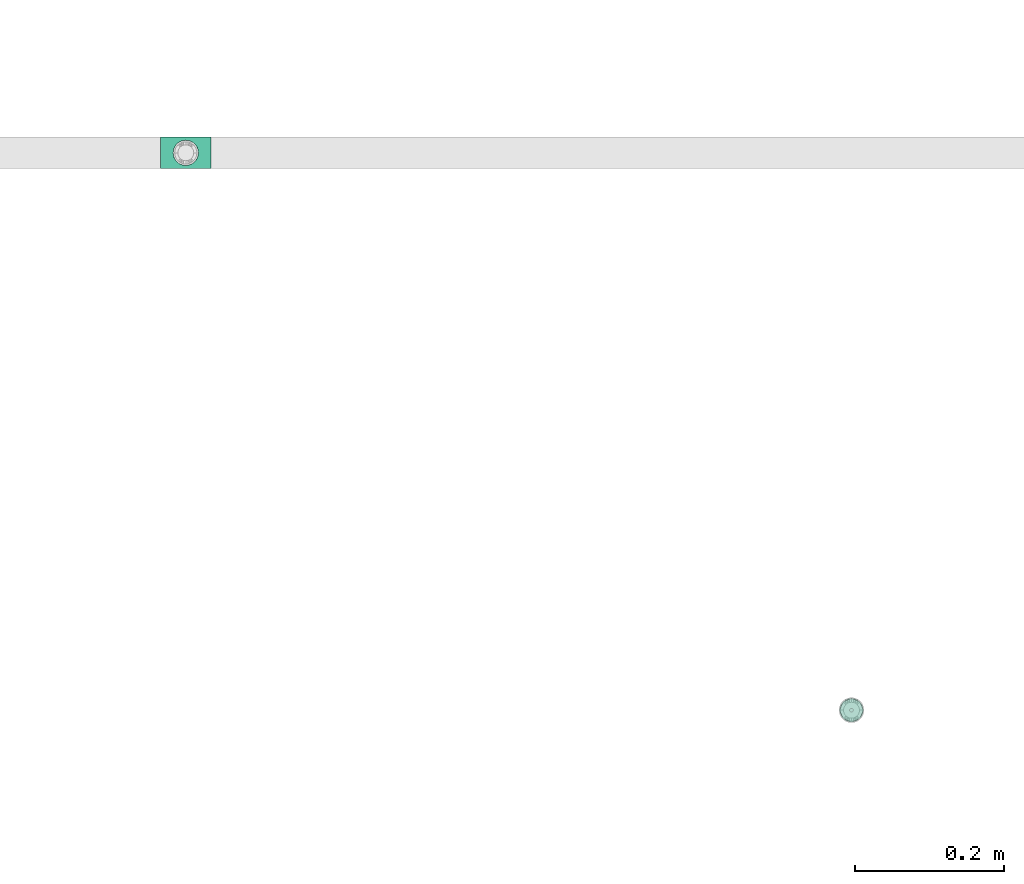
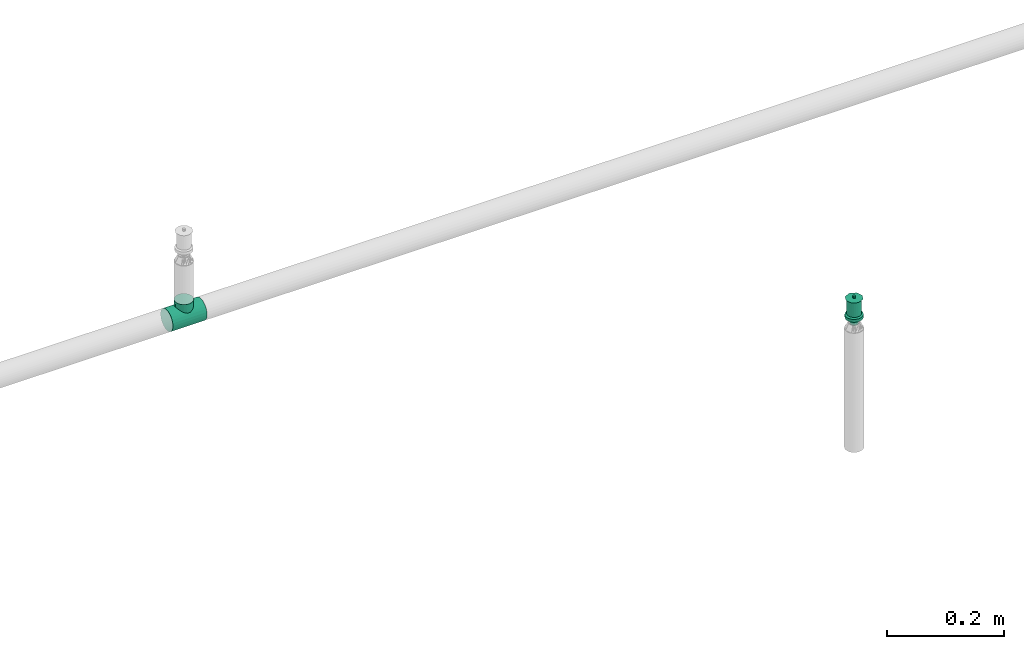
# One storey, part 14 of 94: 1 flow fitting, 1 flow terminal.
"""IFC2X3 building model written with IfcOpenShell, lengths in millimetres."""

from ifc_helpers import new_model, entity, si_unit, converted_unit, derived_unit, direction, frame, origin_with_axes, place, context, subcontext, project, spatial, open_shell, surface_model, source, transform, mapped, type_object, element, save


model = new_model("IFC2X3")

# Units and contexts
model_context = context("Model", 3, precision=0.01, world=frame((0.0, 4.29681676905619e-09, 0.0)), true_north=direction((4.01073788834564e-13, 1.0)))
plan_context = context("Plan", 3, precision=0.01, world=frame((0.0, 4.29681676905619e-09, 0.0)), true_north=direction((4.01073788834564e-13, 1.0)))
body_context = subcontext(model_context, "Body", "Model", "MODEL_VIEW")
ifc_project = project(units=[converted_unit("PLANEANGLEUNIT", "DEGREE", entity("IfcPositiveLengthMeasure", 0.0174532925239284), si_unit("PLANEANGLEUNIT", "RADIAN"), dimensions=[0, 0, 0, 0, 0, 0, 0]), si_unit("AREAUNIT", "SQUARE_METRE"), si_unit("LENGTHUNIT", "METRE", prefix="MILLI"), si_unit("MASSUNIT", "GRAM", prefix="KILO"), si_unit("POWERUNIT", "WATT"), si_unit("PRESSUREUNIT", "PASCAL"), si_unit("FORCEUNIT", "NEWTON", prefix="KILO"), si_unit("ELECTRICCURRENTUNIT", "AMPERE"), si_unit("THERMODYNAMICTEMPERATUREUNIT", "DEGREE_CELSIUS"), si_unit("TIMEUNIT", "SECOND"), si_unit("VOLUMEUNIT", "CUBIC_METRE"), derived_unit("LINEARVELOCITYUNIT", [(si_unit("LENGTHUNIT", "METRE"), 1), (si_unit("TIMEUNIT", "SECOND"), -1)]), derived_unit("VOLUMETRICFLOWRATEUNIT", [(si_unit("VOLUMEUNIT", "CUBIC_METRE"), 1), (si_unit("TIMEUNIT", "SECOND"), -1)]), derived_unit("THERMALTRANSMITTANCEUNIT", [(si_unit("POWERUNIT", "WATT"), 1), (si_unit("THERMODYNAMICTEMPERATUREUNIT", "KELVIN"), -1), (si_unit("AREAUNIT", "SQUARE_METRE"), -1)])], contexts=[model_context, plan_context])

# Site, building, storey
site_placement = place(None, frame((0.0, -4.29681676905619e-09, 0.0), z_axis=(0.0, 0.0, 1.0), x_axis=(1.0, 0.0, 0.0)))
site = spatial("IfcSite", under=ifc_project, at=site_placement, CompositionType="ELEMENT")
building_placement = place(site_placement, frame((0.0, 4.29681676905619e-09, 0.0), z_axis=(0.0, 0.0, 1.0), x_axis=(1.0, 0.0, 0.0)))
building = spatial("IfcBuilding", under=site, at=building_placement, Name="mc-building", CompositionType="ELEMENT")
storey_placement = place(building_placement, frame((0.0, 0.0, 200300.0), z_axis=(0.0, 0.0, 1.0), x_axis=(1.0, 0.0, 0.0)))
storey = spatial("IfcBuildingStorey", under=building, at=storey_placement, Name="Nivå C", CompositionType="ELEMENT", Elevation=200300.0)

# Flow fitting
pipe_fitting_type = type_object("IfcPipeFittingType", Name="magi_pipe_fe_tee_centric_90_NOR", PredefinedType="JUNCTION")
shared_shape_1 = source(origin_with_axes(), body_context, "Body", "SurfaceModel", [
    surface_model("IfcShellBasedSurfaceModel", [(-33.8, 0.0, -21.2), (-33.8, -5.48696, -20.47763), (-33.8, 5.48696, -20.47763), (-33.8, 10.6, -18.35974), (-33.8, 14.99066, -14.99066), (-33.8, -20.47763, 5.48696), (-33.8, 18.35974, -10.6), (-33.8, 10.6, 18.35974), (-33.8, -14.99066, -14.99066), (-33.8, -18.35974, -10.6), (-33.8, -10.6, -18.35974), (-33.8, -20.47763, -5.48696), (-33.8, -21.2, 0.0), (-33.8, 18.35974, 10.6), (-33.8, 20.47763, -5.48696), (-33.8, 20.47763, 5.48696), (-33.8, 21.2, 0.0), (-33.8, 14.99066, 14.99066), (-33.8, 5.48696, 20.47763), (-33.8, 0.0, 21.2), (-33.8, -18.35974, 10.6), (-33.8, -14.99066, 14.99066), (-33.8, -10.6, 18.35974), (-33.8, -5.48696, 20.47763), (33.8, 5.48696, -20.47763), (33.8, -5.48696, -20.47763), (33.8, 0.0, -21.2), (33.8, 14.99066, -14.99066), (33.8, 10.6, -18.35974), (33.8, 18.35974, -10.6), (33.8, 20.47763, -5.48696), (33.8, -21.2, 0.0), (33.8, -10.6, -18.35974), (33.8, -18.35974, -10.6), (33.8, -14.99066, -14.99066), (33.8, -20.47763, -5.48696), (33.8, -20.47763, 5.48696), (33.8, 21.2, 0.0), (33.8, 20.47763, 5.48696), (33.8, 18.35974, 10.6), (33.8, 10.6, 18.35974), (33.8, 14.99066, 14.99066), (33.8, 0.0, 21.2), (33.8, 5.48696, 20.47763), (33.8, -14.99066, 14.99066), (33.8, -18.35974, 10.6), (33.8, -10.6, 18.35974), (33.8, -5.48696, 20.47763), (16.9, -21.2, 0.0), (15.78624, -20.32327, 6.03364), (12.81343, -18.11115, 11.01935), (8.52479, -15.37862, 14.59239), (3.07939, -13.16482, 16.61708), (-16.9, -21.2, 0.0), (-15.78686, -20.32375, 6.032), (-8.52604, -15.37932, 14.59166), (-3.0848, -13.16609, 16.61608), (-12.81602, -18.11299, 11.01634), (3.07939, -13.16482, -16.61708), (12.81343, -18.11115, -11.01935), (8.52479, -15.37862, -14.59239), (15.78624, -20.32327, -6.03364), (-3.0848, -13.16609, -16.61608), (-8.52604, -15.37932, -14.59166), (-12.81602, -18.11299, -11.01634), (-15.78686, -20.32375, -6.032), (4.37404, -31.8, -16.32415), (-16.9, -31.8, 0.0), (0.0, -31.8, -16.9), (14.63583, -31.8, -8.45), (8.45, -31.8, -14.63583), (16.32415, -31.8, -4.37404), (11.9501, -31.8, -11.9501), (-11.9501, -31.8, -11.9501), (-8.45, -31.8, -14.63583), (-4.37404, -31.8, -16.32415), (-14.63583, -31.8, -8.45), (-16.32415, -31.8, -4.37404), (16.9, -31.8, 0.0), (8.45, -31.8, 14.63583), (16.32415, -31.8, 4.37404), (14.63583, -31.8, 8.45), (-8.45, -31.8, 14.63583), (11.9501, -31.8, 11.9501), (4.37404, -31.8, 16.32415), (-16.32415, -31.8, 4.37404), (-11.9501, -31.8, 11.9501), (-14.63583, -31.8, 8.45), (0.0, -31.8, 16.9), (-4.37404, -31.8, 16.32415), (-16.34343, -20.76188, 3.016), (16.34312, -20.76163, 3.01682), (-0.00271, -13.16546, 16.61658), (16.34312, -20.76163, -3.01682), (-0.00271, -13.16546, -16.61658), (-16.34343, -20.76188, -3.016)], [open_shell([[[0, 1, 2]], [[3, 2, 4]], [[5, 2, 1]], [[4, 2, 6]], [[6, 2, 7]], [[8, 9, 10]], [[1, 10, 9]], [[9, 11, 1]], [[12, 1, 11]], [[5, 1, 12]], [[13, 14, 6]], [[13, 15, 16]], [[6, 7, 13]], [[5, 7, 2]], [[17, 13, 7]], [[18, 7, 19]], [[20, 21, 5]], [[22, 5, 21]], [[23, 19, 22]], [[7, 5, 22]], [[22, 19, 7]], [[16, 14, 13]], [[24, 25, 26]], [[27, 24, 28]], [[29, 30, 24]], [[29, 24, 27]], [[31, 24, 30]], [[32, 33, 34]], [[33, 32, 25]], [[33, 31, 35]], [[31, 33, 25]], [[25, 24, 31]], [[30, 36, 31]], [[37, 38, 39]], [[37, 39, 40]], [[37, 40, 36]], [[40, 39, 41]], [[42, 40, 43]], [[36, 44, 45]], [[44, 36, 46]], [[46, 42, 47]], [[46, 36, 40]], [[40, 42, 46]], [[37, 36, 30]], [[31, 36, 48]], [[49, 48, 36]], [[36, 45, 49]], [[45, 44, 50]], [[51, 50, 44]], [[52, 51, 44]], [[44, 46, 52]], [[45, 50, 49]], [[53, 54, 5]], [[5, 12, 53]], [[54, 20, 5]], [[55, 56, 21]], [[20, 57, 21]], [[57, 20, 54]], [[21, 57, 55]], [[56, 22, 21]], [[52, 22, 56]], [[19, 47, 42]], [[23, 46, 47]], [[18, 42, 43]], [[39, 38, 15]], [[17, 40, 41]], [[13, 41, 39]], [[43, 40, 7]], [[16, 38, 37]], [[22, 46, 23]], [[23, 47, 19]], [[18, 19, 42]], [[43, 7, 18]], [[7, 40, 17]], [[13, 17, 41]], [[15, 13, 39]], [[38, 16, 15]], [[46, 22, 52]], [[6, 30, 29]], [[14, 37, 30]], [[4, 29, 27]], [[26, 25, 1]], [[2, 28, 24]], [[0, 24, 26]], [[27, 28, 3]], [[10, 25, 32]], [[16, 37, 14]], [[14, 30, 6]], [[4, 6, 29]], [[27, 3, 4]], [[3, 28, 2]], [[0, 2, 24]], [[1, 0, 26]], [[25, 10, 1]], [[32, 58, 10]], [[34, 59, 60]], [[59, 34, 33]], [[60, 58, 34]], [[34, 58, 32]], [[35, 31, 48]], [[35, 61, 33]], [[61, 35, 48]], [[33, 61, 59]], [[62, 63, 8]], [[8, 64, 9]], [[64, 8, 63]], [[62, 8, 10]], [[65, 53, 11]], [[65, 11, 9]], [[11, 53, 12]], [[65, 9, 64]], [[58, 62, 10]], [[66, 67, 68]], [[69, 66, 70]], [[69, 71, 66]], [[69, 70, 72]], [[67, 66, 71]], [[68, 73, 74]], [[74, 75, 68]], [[76, 67, 77]], [[73, 68, 76]], [[67, 76, 68]], [[71, 78, 67]], [[79, 78, 80]], [[79, 80, 81]], [[82, 67, 79]], [[79, 81, 83]], [[82, 79, 84]], [[85, 86, 87]], [[86, 85, 82]], [[82, 88, 89]], [[85, 67, 82]], [[84, 88, 82]], [[79, 67, 78]], [[85, 90, 67]], [[57, 87, 86]], [[85, 87, 54]], [[86, 82, 55]], [[85, 54, 90]], [[90, 53, 67]], [[54, 87, 57]], [[91, 49, 80]], [[55, 89, 56]], [[55, 57, 86]], [[88, 52, 92]], [[55, 82, 89]], [[52, 88, 84]], [[79, 51, 84]], [[50, 83, 81]], [[83, 51, 79]], [[81, 80, 49]], [[83, 50, 51]], [[51, 52, 84]], [[78, 91, 80]], [[49, 50, 81]], [[91, 78, 48]], [[88, 56, 89]], [[92, 56, 88]], [[71, 93, 78]], [[59, 69, 72]], [[71, 69, 61]], [[72, 70, 60]], [[93, 48, 78]], [[61, 69, 59]], [[60, 66, 58]], [[60, 59, 72]], [[68, 62, 94]], [[60, 70, 66]], [[95, 67, 53]], [[95, 65, 77]], [[71, 61, 93]], [[75, 62, 68]], [[65, 76, 77]], [[73, 76, 64]], [[68, 58, 66]], [[75, 63, 62]], [[63, 75, 74]], [[74, 73, 63]], [[63, 73, 64]], [[64, 76, 65]], [[67, 95, 77]], [[94, 58, 68]]])]),
])
flow_fitting_placement = place(storey_placement, frame((515508.72873, 407003.74497, 2850.0), z_axis=(0.0, -1.0, 0.0), x_axis=(-1.0, 0.0, 0.0)))
element("IfcFlowFitting", 1, at=flow_fitting_placement, inside=storey, type_object=pipe_fitting_type, Name="magi_pipe_fe_tee_centric_90_NOR", context=body_context, shape_type="MappedRepresentation", body=[
    mapped(shared_shape_1, transform((0.0, 0.0, 0.0), scale=1.0)),
])

# Flow terminal
fire_suppression_terminal_type = type_object("IfcFireSuppressionTerminalType", Name="68DGR-STD-STÅENDE", PredefinedType="NOTDEFINED")
shared_shape_2 = source(origin_with_axes(), body_context, "Body", "SurfaceModel", [
    surface_model("IfcShellBasedSurfaceModel", [(12.55704, 3.36465, 21.14766), (13.0, 0.0, 21.14766), (12.55704, -3.36465, 21.14766), (-12.55704, -3.36465, 21.14766), (-11.25833, -6.5, 21.14766), (-11.25833, -6.5, 51.0), (3.36465, -12.55704, 51.0), (3.36465, -12.55704, 21.14766), (6.5, -11.25833, 21.14766), (9.19239, -9.19239, 21.14766), (11.25833, -6.5, 21.14766), (9.19239, -9.19239, 51.0), (6.5, -11.25833, 51.0), (11.25833, -6.5, 51.0), (12.55704, -3.36465, 51.0), (13.0, 0.0, 51.0), (9.19239, 9.19239, 51.0), (11.25833, 6.5, 21.14766), (9.19239, 9.19239, 21.14766), (11.25833, 6.5, 51.0), (12.55704, 3.36465, 51.0), (6.5, 11.25833, 51.0), (6.5, 11.25833, 21.14766), (3.36465, 12.55704, 21.14766), (3.36465, 12.55704, 51.0), (-11.25833, 6.5, 51.0), (-11.25833, 6.5, 21.14766), (-12.55704, 3.36465, 21.14766), (0.0, -2.5, 51.0), (-2.5, 0.0, 51.0), (0.0, 2.5, 51.0), (2.5, 0.0, 51.0), (11.31371, 11.31371, 53.0), (-11.31371, 11.31371, 53.0), (-11.31371, -11.31371, 53.0), (11.31371, -11.31371, 53.0), (1.62635, 1.62635, 51.0), (2.16506, 1.25, 51.0), (1.99186, 1.15, 51.0), (-1.76777, 1.76777, 51.0), (-1.25, 2.16506, 51.0), (-1.62635, 1.62635, 51.0), (1.99186, -1.15, 51.0), (2.16506, -1.25, 51.0), (1.62635, -1.62635, 51.0), (-1.62635, -1.62635, 51.0), (-1.25, -2.16506, 51.0), (-1.76777, -1.76777, 51.0), (0.0, 7.3, 0.0), (1.94114, 7.24444, 0.0), (1.88938, 7.05126, 0.0), (5.16188, 5.16188, 0.0), (6.49519, 3.75, 0.0), (6.32199, 3.65, 0.0), (-5.3033, 5.3033, 0.0), (-3.75, 6.49519, 0.0), (-5.16188, 5.16188, 0.0), (6.32199, -3.65, 0.0), (6.49519, -3.75, 0.0), (5.16188, -5.16188, 0.0), (1.88938, -7.05126, 0.0), (1.94114, -7.24444, 0.0), (0.0, -7.3, 0.0), (-5.16188, -5.16188, 0.0), (-3.75, -6.49519, 0.0), (-5.3033, -5.3033, 0.0), (-3.36465, 12.55704, 51.0), (-6.5, 11.25833, 51.0), (0.0, 13.0, 51.0), (-9.19239, 9.19239, 51.0), (0.0, -13.0, 51.0), (-9.19239, -9.19239, 51.0), (-12.55704, -3.36465, 51.0), (-6.5, -11.25833, 51.0), (-3.36465, -12.55704, 51.0), (-7.5, 0.0, -0.1), (-7.24444, 1.94114, 0.1), (-7.24444, 1.94114, -0.1), (-6.49519, 3.75, 0.1), (-6.49519, 3.75, -0.1), (-3.75, 6.49519, -0.1), (-5.3033, 5.3033, -0.1), (-3.75, 6.49519, 0.1), (-5.3033, 5.3033, 0.1), (-1.94114, 7.24444, -0.1), (-1.94114, 7.24444, 0.1), (-7.5, 0.0, 0.1), (0.0, 7.5, 0.1), (0.0, 7.5, -0.1), (1.94114, 7.24444, 0.1), (1.94114, 7.24444, -0.1), (3.75, 6.49519, 0.1), (3.75, 6.49519, -0.1), (6.49519, 3.75, -0.1), (5.3033, 5.3033, -0.1), (6.49519, 3.75, 0.1), (5.3033, 5.3033, 0.1), (7.24444, 1.94114, -0.1), (7.24444, 1.94114, 0.1), (7.5, 0.0, 0.1), (7.5, 0.0, -0.1), (-7.24444, -1.94114, 0.1), (7.24444, -1.94114, 0.1), (5.3033, -5.3033, 0.1), (6.49519, -3.75, 0.1), (-6.49519, -3.75, 0.1), (0.0, -7.5, 0.1), (1.94114, -7.24444, 0.1), (3.75, -6.49519, 0.1), (-3.75, -6.49519, 0.1), (-1.94114, -7.24444, 0.1), (-5.3033, -5.3033, 0.1), (0.0, -7.5, -0.1), (-6.49519, -3.75, -0.1), (1.94114, -7.24444, -0.1), (3.75, -6.49519, -0.1), (5.3033, -5.3033, -0.1), (7.24444, -1.94114, -0.1), (6.49519, -3.75, -0.1), (-3.75, -6.49519, -0.1), (-5.3033, -5.3033, -0.1), (-1.94114, -7.24444, -0.1), (-7.24444, -1.94114, -0.1), (16.0, 0.0, 53.0), (0.0, -16.0, 53.0), (-16.0, 0.0, 53.0), (0.0, 16.0, 53.0), (0.64705, 2.41481, 57.0), (0.0, 2.5, 57.0), (1.25, 2.16506, 57.0), (-2.5, 0.0, 57.0), (1.76777, 1.76777, 57.0), (2.41481, 0.64705, 57.0), (2.16506, 1.25, 57.0), (-0.64705, 2.41481, 57.0), (-1.25, 2.16506, 57.0), (-1.76777, 1.76777, 57.0), (-2.16506, 1.25, 57.0), (-2.41481, 0.64705, 57.0), (2.5, 0.0, 57.0), (1.76777, -1.76777, 57.0), (2.16506, -1.25, 57.0), (2.41481, -0.64705, 57.0), (-2.41481, -0.64705, 57.0), (0.64705, -2.41481, 57.0), (1.25, -2.16506, 57.0), (0.0, -2.5, 57.0), (-1.76777, -1.76777, 57.0), (-2.16506, -1.25, 57.0), (-1.25, -2.16506, 57.0), (-0.64705, -2.41481, 57.0), (1.15, -1.99186, 51.0), (1.76777, -1.76777, 51.0), (1.25, -2.16506, 51.0), (0.59528, -2.22163, 51.0), (0.0, -2.3, 51.0), (0.64705, -2.41481, 51.0), (2.22163, -0.59528, 51.0), (2.3, 0.0, 51.0), (2.41481, -0.64705, 51.0), (-0.64705, -2.41481, 51.0), (-0.59528, -2.22163, 51.0), (-1.15, -1.99186, 51.0), (-2.16506, -1.25, 51.0), (-1.99186, -1.15, 51.0), (-2.22163, -0.59528, 51.0), (-2.3, 0.0, 51.0), (-2.41481, -0.64705, 51.0), (2.22163, 0.59528, 51.0), (2.41481, 0.64705, 51.0), (1.76777, 1.76777, 51.0), (1.15, 1.99186, 51.0), (1.25, 2.16506, 51.0), (0.59528, 2.22163, 51.0), (0.0, 2.3, 51.0), (0.64705, 2.41481, 51.0), (-1.99186, 1.15, 51.0), (-2.16506, 1.25, 51.0), (-2.41481, 0.64705, 51.0), (-2.22163, 0.59528, 51.0), (-0.64705, 2.41481, 51.0), (-0.59528, 2.22163, 51.0), (-1.15, 1.99186, 51.0), (-2.22163, 0.59528, 56.8), (-1.99186, 1.15, 56.8), (-1.15, 1.99186, 56.8), (-1.62635, 1.62635, 56.8), (-0.59528, 2.22163, 56.8), (-2.3, 0.0, 56.8), (0.0, 2.3, 56.8), (0.59528, 2.22163, 56.8), (1.15, 1.99186, 56.8), (1.99186, 1.15, 56.8), (1.62635, 1.62635, 56.8), (2.22163, 0.59528, 56.8), (2.3, 0.0, 56.8), (2.22163, -0.59528, 56.8), (1.99186, -1.15, 56.8), (1.62635, -1.62635, 56.8), (1.15, -1.99186, 56.8), (0.59528, -2.22163, 56.8), (0.0, -2.3, 56.8), (-1.99186, -1.15, 56.8), (-2.22163, -0.59528, 56.8), (-1.62635, -1.62635, 56.8), (-0.59528, -2.22163, 56.8), (-1.15, -1.99186, 56.8), (8.0, -13.85641, 13.0), (4.1411, -15.45481, 13.0), (0.0, -16.0, 13.0), (-4.1411, -15.45481, 13.0), (15.45481, -4.1411, 13.0), (13.85641, -8.0, 13.0), (11.31371, -11.31371, 13.0), (-16.0, 0.0, 13.0), (-8.0, -13.85641, 13.0), (-11.31371, -11.31371, 13.0), (-13.85641, -8.0, 13.0), (-15.45481, -4.1411, 13.0), (15.45481, 4.1411, 13.0), (4.1411, 15.45481, 13.0), (13.85641, 8.0, 13.0), (8.0, 13.85641, 13.0), (11.31371, 11.31371, 13.0), (-15.45481, 4.1411, 13.0), (-11.31371, 11.31371, 13.0), (-8.0, 13.85641, 13.0), (-13.85641, 8.0, 13.0), (-4.1411, 15.45481, 13.0), (0.0, 16.0, 13.0), (16.0, 0.0, 13.0), (7.05126, 1.88938, 12.8), (1.88938, 7.05126, 12.8), (3.65, 6.32199, 12.8), (6.32199, 3.65, 12.8), (5.16188, 5.16188, 12.8), (7.3, 0.0, 12.8), (0.0, 7.3, 12.8), (-3.65, 6.32199, 12.8), (-1.88938, 7.05126, 12.8), (-5.16188, 5.16188, 12.8), (-7.05126, 1.88938, 12.8), (-6.32199, 3.65, 12.8), (7.05126, -1.88938, 12.8), (0.0, -7.3, 12.8), (6.32199, -3.65, 12.8), (3.65, -6.32199, 12.8), (5.16188, -5.16188, 12.8), (1.88938, -7.05126, 12.8), (-7.3, 0.0, 12.8), (-6.32199, -3.65, 12.8), (-7.05126, -1.88938, 12.8), (-1.88938, -7.05126, 12.8), (-5.16188, -5.16188, 12.8), (-3.65, -6.32199, 12.8), (-7.05126, 1.88938, 0.0), (-7.3, 0.0, 0.0), (-6.32199, 3.65, 0.0), (-3.65, 6.32199, 0.0), (-1.88938, 7.05126, 0.0), (3.65, 6.32199, 0.0), (7.05126, 1.88938, 0.0), (7.3, 0.0, 0.0), (3.75, 6.49519, 13.0), (1.94114, 7.24444, 13.0), (7.5, 0.0, 13.0), (5.3033, 5.3033, 13.0), (7.24444, 1.94114, 13.0), (6.49519, 3.75, 13.0), (-5.3033, 5.3033, 13.0), (-7.24444, -1.94114, 13.0), (-1.94114, 7.24444, 13.0), (-3.75, 6.49519, 13.0), (0.0, 7.5, 13.0), (-6.49519, 3.75, 13.0), (-7.24444, 1.94114, 13.0), (7.24444, -1.94114, 13.0), (5.3033, -5.3033, 13.0), (6.49519, -3.75, 13.0), (-6.49519, -3.75, 13.0), (0.0, -7.5, 13.0), (1.94114, -7.24444, 13.0), (3.75, -6.49519, 13.0), (-7.5, 0.0, 13.0), (-3.75, -6.49519, 13.0), (-1.94114, -7.24444, 13.0), (-5.3033, -5.3033, 13.0), (3.65, -6.32199, 0.0), (5.3033, -5.3033, 0.0), (3.75, -6.49519, 0.0), (0.0, -7.5, 0.0), (7.05126, -1.88938, 0.0), (7.24444, -1.94114, 0.0), (7.5, 0.0, 0.0), (-1.94114, -7.24444, 0.0), (-1.88938, -7.05126, 0.0), (-3.65, -6.32199, 0.0), (-6.49519, -3.75, 0.0), (-6.32199, -3.65, 0.0), (-7.05126, -1.88938, 0.0), (-7.24444, -1.94114, 0.0), (-7.5, 0.0, 0.0), (7.24444, 1.94114, 0.0), (5.3033, 5.3033, 0.0), (3.75, 6.49519, 0.0), (0.0, 7.5, 0.0), (-6.49519, 3.75, 0.0), (-7.24444, 1.94114, 0.0), (-1.94114, 7.24444, 0.0), (-12.55704, 3.36465, 51.0), (-13.0, 0.0, 51.0), (0.0, -13.0, 21.14766), (-3.36465, -12.55704, 21.14766), (-6.5, -11.25833, 21.14766), (-9.19239, -9.19239, 21.14766), (-13.0, 0.0, 21.14766), (-9.19239, 9.19239, 21.14766), (-6.5, 11.25833, 21.14766), (-3.36465, 12.55704, 21.14766), (0.0, 13.0, 21.14766), (11.31371, 11.31371, 19.0), (8.0, 13.85641, 19.0), (4.1411, 15.45481, 19.0), (-8.0, 13.85641, 19.0), (16.0, 0.0, 19.0), (15.45481, 4.1411, 19.0), (13.85641, 8.0, 19.0), (-4.1411, 15.45481, 19.0), (0.0, 16.0, 19.0), (-11.31371, 11.31371, 19.0), (-13.85641, 8.0, 19.0), (-15.45481, 4.1411, 19.0), (15.45481, -4.1411, 19.0), (11.31371, -11.31371, 19.0), (13.85641, -8.0, 19.0), (-16.0, 0.0, 19.0), (0.0, -16.0, 19.0), (4.1411, -15.45481, 19.0), (8.0, -13.85641, 19.0), (-13.85641, -8.0, 19.0), (-11.31371, -11.31371, 19.0), (-15.45481, -4.1411, 19.0), (-8.0, -13.85641, 19.0), (-4.1411, -15.45481, 19.0)], [open_shell([[[0, 1, 2]], [[3, 4, 5]], [[6, 7, 8]], [[9, 10, 11]], [[9, 11, 12]], [[10, 13, 11]], [[14, 13, 2]], [[1, 15, 14]], [[16, 17, 18]], [[0, 19, 20]], [[20, 15, 1]], [[21, 16, 18]], [[22, 23, 24]], [[16, 19, 17]], [[25, 26, 27]], [[28, 29, 30]], [[30, 31, 28]], [[31, 30, 32]], [[33, 30, 29]], [[29, 28, 34]], [[35, 28, 31]], [[36, 37, 38]], [[39, 40, 41]], [[42, 43, 44]], [[45, 46, 47]], [[48, 49, 50]], [[51, 52, 53]], [[54, 55, 56]], [[57, 58, 59]], [[60, 61, 62]], [[63, 64, 65]], [[66, 67, 68]], [[67, 24, 68]], [[69, 25, 67]], [[15, 20, 14]], [[70, 6, 12]], [[5, 71, 72]], [[73, 74, 71]], [[72, 71, 74]], [[75, 76, 77]], [[77, 78, 79]], [[80, 81, 82]], [[83, 81, 79]], [[84, 80, 85]], [[76, 78, 77]], [[75, 86, 76]], [[80, 82, 85]], [[82, 81, 83]], [[79, 78, 83]], [[84, 85, 87]], [[87, 88, 84]], [[88, 89, 90]], [[90, 91, 92]], [[93, 94, 95]], [[96, 94, 92]], [[97, 93, 98]], [[91, 96, 92]], [[90, 89, 91]], [[97, 98, 99]], [[98, 93, 95]], [[94, 96, 95]], [[97, 99, 100]], [[87, 89, 88]], [[91, 89, 99]], [[96, 91, 98]], [[91, 99, 98]], [[95, 96, 98]], [[89, 83, 101]], [[85, 82, 87]], [[83, 87, 82]], [[78, 76, 83]], [[89, 87, 83]], [[76, 101, 83]], [[102, 99, 89]], [[103, 104, 102]], [[89, 105, 103]], [[103, 106, 107]], [[108, 103, 107]], [[106, 103, 105]], [[89, 101, 105]], [[101, 76, 86]], [[109, 110, 111]], [[105, 111, 110]], [[106, 105, 110]], [[103, 102, 89]], [[112, 113, 114]], [[115, 114, 116]], [[117, 118, 116]], [[113, 116, 114]], [[116, 113, 117]], [[119, 120, 121]], [[113, 121, 120]], [[121, 113, 112]], [[113, 122, 117]], [[75, 77, 122]], [[100, 117, 122]], [[100, 81, 97]], [[93, 97, 90]], [[90, 92, 94]], [[93, 90, 94]], [[90, 97, 81]], [[79, 81, 77]], [[77, 81, 122]], [[84, 88, 80]], [[81, 80, 88]], [[81, 88, 90]], [[100, 122, 81]], [[100, 102, 117]], [[117, 104, 118]], [[115, 116, 108]], [[103, 116, 118]], [[114, 115, 107]], [[102, 104, 117]], [[100, 99, 102]], [[115, 108, 107]], [[108, 116, 103]], [[118, 104, 103]], [[114, 107, 106]], [[106, 112, 114]], [[112, 110, 121]], [[121, 109, 119]], [[113, 120, 105]], [[111, 120, 119]], [[122, 113, 101]], [[109, 111, 119]], [[121, 110, 109]], [[122, 101, 86]], [[101, 113, 105]], [[120, 111, 105]], [[122, 86, 75]], [[106, 110, 112]], [[31, 123, 35]], [[35, 124, 28]], [[124, 34, 28]], [[29, 34, 125]], [[33, 32, 126]], [[33, 125, 124]], [[124, 32, 33]], [[124, 35, 123]], [[124, 125, 34]], [[123, 32, 124]], [[29, 125, 33]], [[33, 126, 30]], [[126, 32, 30]], [[31, 32, 123]], [[127, 128, 129]], [[129, 130, 131]], [[132, 131, 130]], [[133, 131, 132]], [[130, 129, 128]], [[134, 135, 128]], [[136, 128, 135]], [[137, 138, 136]], [[128, 136, 130]], [[138, 130, 136]], [[139, 132, 130]], [[140, 141, 142]], [[143, 140, 139]], [[144, 140, 143]], [[145, 140, 144]], [[146, 144, 147]], [[139, 130, 143]], [[143, 148, 144]], [[149, 150, 147]], [[144, 148, 147]], [[146, 147, 150]], [[140, 142, 139]], [[151, 152, 153]], [[154, 151, 153]], [[155, 154, 156]], [[153, 156, 154]], [[28, 155, 156]], [[44, 152, 151]], [[157, 158, 159]], [[31, 159, 158]], [[43, 157, 159]], [[152, 44, 43]], [[157, 43, 42]], [[160, 161, 28]], [[161, 155, 28]], [[162, 161, 160]], [[160, 46, 162]], [[162, 46, 45]], [[47, 163, 164]], [[165, 164, 163]], [[45, 47, 164]], [[166, 165, 167]], [[163, 167, 165]], [[29, 166, 167]], [[168, 169, 31]], [[38, 169, 168]], [[169, 38, 37]], [[170, 37, 36]], [[171, 172, 170]], [[173, 172, 171]], [[174, 175, 173]], [[172, 173, 175]], [[30, 175, 174]], [[170, 36, 171]], [[39, 176, 177]], [[41, 176, 39]], [[178, 177, 176]], [[178, 179, 29]], [[176, 179, 178]], [[179, 166, 29]], [[180, 30, 181]], [[182, 180, 181]], [[182, 41, 40]], [[180, 182, 40]], [[181, 30, 174]], [[31, 158, 168]], [[29, 138, 178]], [[178, 137, 177]], [[40, 39, 135]], [[136, 39, 177]], [[180, 40, 134]], [[138, 137, 178]], [[29, 130, 138]], [[40, 135, 134]], [[135, 39, 136]], [[177, 137, 136]], [[180, 134, 128]], [[128, 30, 180]], [[30, 127, 175]], [[175, 129, 172]], [[37, 170, 133]], [[131, 170, 172]], [[169, 37, 132]], [[129, 131, 172]], [[175, 127, 129]], [[169, 132, 139]], [[132, 37, 133]], [[170, 131, 133]], [[169, 139, 31]], [[128, 127, 30]], [[179, 183, 166]], [[176, 184, 179]], [[185, 41, 182]], [[176, 41, 186]], [[187, 182, 181]], [[179, 184, 183]], [[183, 188, 166]], [[187, 185, 182]], [[186, 41, 185]], [[186, 184, 176]], [[189, 187, 181]], [[181, 174, 189]], [[173, 190, 174]], [[171, 191, 173]], [[192, 36, 38]], [[171, 36, 193]], [[194, 38, 168]], [[171, 193, 191]], [[191, 190, 173]], [[195, 194, 168]], [[192, 38, 194]], [[192, 193, 36]], [[158, 195, 168]], [[174, 190, 189]], [[31, 142, 159]], [[159, 141, 43]], [[153, 152, 145]], [[140, 152, 43]], [[156, 153, 144]], [[142, 141, 159]], [[31, 139, 142]], [[153, 145, 144]], [[145, 152, 140]], [[43, 141, 140]], [[156, 144, 146]], [[146, 28, 156]], [[28, 150, 160]], [[160, 149, 46]], [[163, 47, 148]], [[147, 47, 46]], [[167, 163, 143]], [[149, 147, 46]], [[160, 150, 149]], [[167, 143, 130]], [[143, 163, 148]], [[47, 147, 148]], [[167, 130, 29]], [[146, 150, 28]], [[190, 191, 193]], [[190, 193, 195]], [[194, 195, 193]], [[194, 193, 192]], [[190, 195, 186]], [[189, 185, 187]], [[185, 189, 186]], [[186, 183, 184]], [[186, 189, 190]], [[186, 196, 183]], [[186, 195, 196]], [[196, 197, 198]], [[196, 198, 199]], [[199, 200, 201]], [[199, 201, 196]], [[196, 201, 202]], [[188, 202, 203]], [[183, 202, 188]], [[204, 205, 206]], [[205, 204, 202]], [[201, 205, 202]], [[202, 183, 196]], [[157, 196, 158]], [[42, 197, 157]], [[199, 44, 151]], [[42, 44, 198]], [[200, 151, 154]], [[157, 197, 196]], [[196, 195, 158]], [[200, 199, 151]], [[198, 44, 199]], [[198, 197, 42]], [[201, 200, 154]], [[154, 155, 201]], [[161, 205, 155]], [[162, 206, 161]], [[202, 45, 164]], [[162, 45, 204]], [[203, 164, 165]], [[162, 204, 206]], [[206, 205, 161]], [[188, 203, 165]], [[202, 164, 203]], [[202, 204, 45]], [[166, 188, 165]], [[155, 205, 201]], [[207, 208, 209]], [[207, 209, 210]], [[211, 212, 213]], [[213, 207, 214]], [[211, 213, 214]], [[215, 216, 210]], [[217, 210, 216]], [[217, 218, 210]], [[218, 207, 210]], [[218, 214, 207]], [[214, 219, 211]], [[220, 219, 214]], [[221, 219, 220]], [[220, 222, 223]], [[221, 220, 223]], [[214, 224, 220]], [[225, 226, 227]], [[224, 227, 226]], [[228, 229, 226]], [[220, 224, 226]], [[226, 229, 220]], [[219, 230, 211]], [[231, 232, 233]], [[234, 233, 235]], [[231, 236, 232]], [[231, 233, 234]], [[232, 236, 237]], [[237, 238, 239]], [[238, 237, 240]], [[240, 241, 242]], [[240, 237, 236]], [[236, 241, 240]], [[236, 243, 241]], [[244, 243, 245]], [[246, 245, 247]], [[246, 248, 244]], [[246, 244, 245]], [[243, 244, 249]], [[249, 250, 251]], [[250, 249, 252]], [[253, 252, 254]], [[252, 253, 250]], [[249, 244, 252]], [[243, 249, 241]], [[255, 241, 256]], [[257, 242, 255]], [[238, 56, 258]], [[257, 56, 240]], [[239, 258, 259]], [[255, 242, 241]], [[241, 249, 256]], [[239, 238, 258]], [[240, 56, 238]], [[240, 242, 257]], [[237, 239, 259]], [[259, 48, 237]], [[50, 232, 48]], [[260, 233, 50]], [[234, 51, 53]], [[260, 51, 235]], [[231, 53, 261]], [[260, 235, 233]], [[233, 232, 50]], [[236, 231, 261]], [[234, 53, 231]], [[234, 235, 51]], [[262, 236, 261]], [[48, 232, 237]], [[263, 264, 265]], [[266, 263, 267]], [[263, 265, 267]], [[268, 266, 267]], [[264, 269, 270]], [[271, 272, 273]], [[269, 273, 272]], [[274, 275, 269]], [[264, 273, 269]], [[275, 270, 269]], [[276, 265, 264]], [[277, 278, 276]], [[264, 279, 277]], [[277, 280, 281]], [[282, 277, 281]], [[280, 277, 279]], [[264, 270, 279]], [[270, 275, 283]], [[284, 285, 286]], [[279, 286, 285]], [[280, 279, 285]], [[277, 276, 264]], [[287, 288, 289]], [[60, 287, 289]], [[290, 62, 61]], [[289, 61, 60]], [[59, 288, 287]], [[291, 262, 292]], [[293, 292, 262]], [[58, 291, 292]], [[288, 59, 58]], [[291, 58, 57]], [[294, 295, 290]], [[296, 295, 294]], [[294, 64, 296]], [[64, 63, 296]], [[295, 62, 290]], [[65, 297, 298]], [[299, 298, 297]], [[63, 65, 298]], [[256, 299, 300]], [[297, 300, 299]], [[301, 256, 300]], [[261, 302, 293]], [[53, 302, 261]], [[302, 53, 52]], [[303, 52, 51]], [[260, 304, 303]], [[50, 304, 260]], [[304, 50, 49]], [[305, 49, 48]], [[303, 51, 260]], [[54, 257, 306]], [[56, 257, 54]], [[307, 306, 257]], [[307, 255, 301]], [[257, 255, 307]], [[255, 256, 301]], [[308, 305, 259]], [[258, 308, 259]], [[55, 258, 56]], [[308, 258, 55]], [[259, 305, 48]], [[293, 262, 261]], [[301, 275, 307]], [[307, 274, 306]], [[55, 54, 272]], [[269, 54, 306]], [[308, 55, 271]], [[275, 274, 307]], [[301, 283, 275]], [[55, 272, 271]], [[272, 54, 269]], [[306, 274, 269]], [[308, 271, 273]], [[273, 305, 308]], [[305, 264, 49]], [[49, 263, 304]], [[52, 303, 268]], [[266, 303, 304]], [[302, 52, 267]], [[263, 266, 304]], [[49, 264, 263]], [[302, 267, 265]], [[267, 52, 268]], [[303, 266, 268]], [[302, 265, 293]], [[273, 264, 305]], [[293, 276, 292]], [[292, 278, 58]], [[289, 288, 282]], [[277, 288, 58]], [[61, 289, 281]], [[276, 278, 292]], [[293, 265, 276]], [[289, 282, 281]], [[282, 288, 277]], [[58, 278, 277]], [[61, 281, 280]], [[280, 290, 61]], [[290, 285, 294]], [[294, 284, 64]], [[297, 65, 279]], [[286, 65, 64]], [[300, 297, 270]], [[284, 286, 64]], [[294, 285, 284]], [[300, 270, 283]], [[270, 297, 279]], [[65, 286, 279]], [[300, 283, 301]], [[280, 285, 290]], [[291, 243, 262]], [[57, 245, 291]], [[246, 59, 287]], [[57, 59, 247]], [[248, 287, 60]], [[291, 245, 243]], [[243, 236, 262]], [[248, 246, 287]], [[247, 59, 246]], [[247, 245, 57]], [[244, 248, 60]], [[60, 62, 244]], [[295, 252, 62]], [[296, 254, 295]], [[250, 63, 298]], [[296, 63, 253]], [[251, 298, 299]], [[296, 253, 254]], [[254, 252, 295]], [[249, 251, 299]], [[250, 298, 251]], [[250, 253, 63]], [[256, 249, 299]], [[62, 252, 244]], [[16, 21, 24]], [[20, 16, 24]], [[24, 67, 72]], [[19, 16, 20]], [[24, 72, 20]], [[25, 72, 67]], [[309, 310, 25]], [[11, 13, 14]], [[72, 11, 20]], [[74, 12, 11]], [[12, 74, 70]], [[72, 25, 310]], [[72, 74, 11]], [[11, 14, 20]], [[8, 7, 311]], [[8, 311, 312]], [[2, 10, 9]], [[3, 9, 8]], [[3, 26, 9]], [[313, 314, 312]], [[3, 312, 314]], [[4, 3, 314]], [[3, 8, 312]], [[315, 26, 3]], [[2, 9, 26]], [[0, 2, 26]], [[17, 0, 18]], [[23, 22, 18]], [[0, 23, 18]], [[23, 0, 26]], [[316, 317, 26]], [[26, 315, 27]], [[318, 319, 317]], [[23, 26, 317]], [[23, 317, 319]], [[316, 26, 25]], [[318, 317, 67]], [[69, 317, 316]], [[319, 318, 66]], [[310, 309, 315]], [[27, 315, 309]], [[25, 27, 309]], [[25, 69, 316]], [[317, 69, 67]], [[67, 66, 318]], [[66, 68, 319]], [[22, 21, 18]], [[0, 17, 19]], [[1, 0, 20]], [[68, 24, 23]], [[24, 21, 22]], [[319, 68, 23]], [[1, 14, 2]], [[2, 13, 10]], [[6, 311, 7]], [[6, 8, 12]], [[12, 8, 9]], [[6, 70, 311]], [[313, 312, 74]], [[313, 73, 314]], [[71, 4, 314]], [[315, 3, 72]], [[70, 74, 312]], [[74, 73, 313]], [[73, 71, 314]], [[71, 5, 4]], [[3, 5, 72]], [[72, 310, 315]], [[311, 70, 312]], [[320, 321, 322]], [[320, 322, 323]], [[320, 324, 325]], [[326, 320, 325]], [[324, 320, 323]], [[327, 323, 328]], [[323, 322, 328]], [[329, 330, 323]], [[331, 323, 330]], [[323, 331, 324]], [[331, 332, 324]], [[333, 334, 332]], [[335, 333, 331]], [[336, 337, 338]], [[335, 338, 333]], [[338, 335, 336]], [[339, 340, 341]], [[335, 341, 340]], [[342, 343, 340]], [[335, 340, 343]], [[343, 336, 335]], [[332, 331, 333]], [[214, 331, 224]], [[224, 330, 227]], [[226, 225, 323]], [[329, 225, 227]], [[228, 226, 327]], [[331, 330, 224]], [[214, 335, 331]], [[226, 323, 327]], [[323, 225, 329]], [[227, 330, 329]], [[228, 327, 328]], [[328, 229, 228]], [[229, 322, 220]], [[220, 321, 222]], [[221, 223, 326]], [[320, 223, 222]], [[219, 221, 325]], [[321, 320, 222]], [[220, 322, 321]], [[219, 325, 324]], [[325, 221, 326]], [[223, 320, 326]], [[219, 324, 230]], [[328, 322, 229]], [[230, 332, 211]], [[211, 334, 212]], [[207, 213, 338]], [[333, 213, 212]], [[208, 207, 337]], [[332, 334, 211]], [[230, 324, 332]], [[207, 338, 337]], [[338, 213, 333]], [[212, 334, 333]], [[208, 337, 336]], [[336, 209, 208]], [[209, 343, 210]], [[210, 342, 215]], [[217, 216, 339]], [[340, 216, 215]], [[218, 217, 341]], [[342, 340, 215]], [[210, 343, 342]], [[218, 341, 335]], [[341, 217, 339]], [[216, 340, 339]], [[218, 335, 214]], [[336, 343, 209]]])]),
])
flow_terminal_placement = place(storey_placement, frame((516401.31443, 406256.49509, 2972.0), z_axis=(0.0, 0.0, 1.0), x_axis=(-1.0, 0.0, 0.0)))
element("IfcFlowTerminal", 2, at=flow_terminal_placement, inside=storey, type_object=fire_suppression_terminal_type, Name="68DGR-STD-STÅENDE", context=body_context, shape_type="MappedRepresentation", body=[
    mapped(shared_shape_2, transform((0.0, 0.0, 0.0), scale=1.0)),
])

save(model, "model.ifc")
